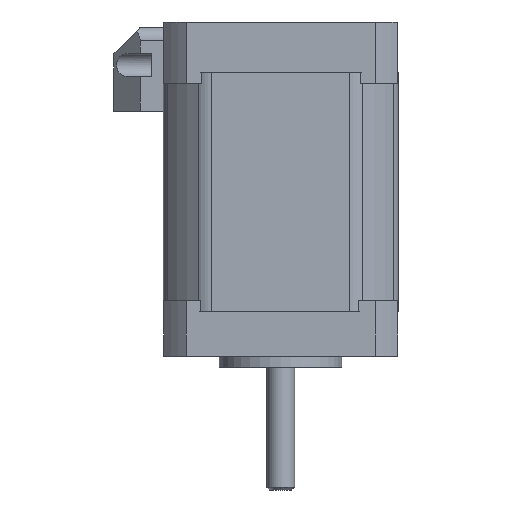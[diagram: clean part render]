
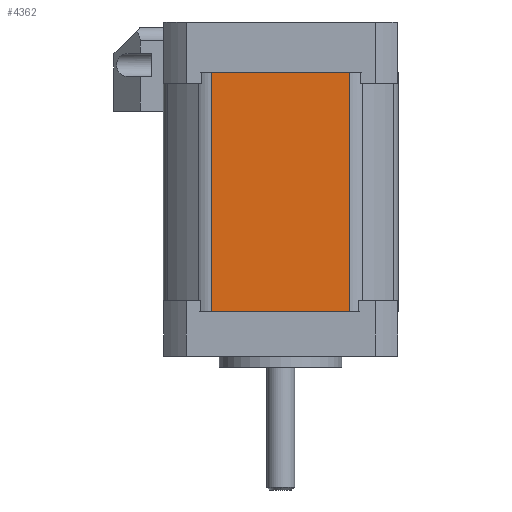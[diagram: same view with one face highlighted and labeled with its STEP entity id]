
A CAD part, left-side view. The second image highlights one B-rep face of the part: STEP entity #4362.
In plain terms, the highlighted planar face has unit normal (-1, 0, 0).
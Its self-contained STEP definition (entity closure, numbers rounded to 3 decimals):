
#511 = FACE_OUTER_BOUND ( 'NONE', #11857, .T. ) ;
#854 = ORIENTED_EDGE ( 'NONE', *, *, #3092, .F. ) ;
#1238 = DIRECTION ( 'NONE',  ( 0., 0., -1. ) ) ;
#2352 = VERTEX_POINT ( 'NONE', #17008 ) ;
#2599 = CARTESIAN_POINT ( 'NONE',  ( -21.065, -12.422, 0. ) ) ;
#3092 = EDGE_CURVE ( 'NONE', #2352, #13636, #19093, .T. ) ;
#3503 = DIRECTION ( 'NONE',  ( 0., -1., 0. ) ) ;
#4325 = EDGE_CURVE ( 'NONE', #14086, #13636, #16878, .T. ) ;
#4362 = ADVANCED_FACE ( 'NONE', ( #511 ), #4386, .F. ) ;
#4386 = PLANE ( 'NONE',  #5140 ) ;
#4445 = DIRECTION ( 'NONE',  ( 0., 0., -1. ) ) ;
#5140 = AXIS2_PLACEMENT_3D ( 'NONE', #19902, #7682, #1238 ) ;
#5336 = DIRECTION ( 'NONE',  ( 0., 0., 1. ) ) ;
#5464 = CARTESIAN_POINT ( 'NONE',  ( -21.065, 12.422, 43. ) ) ;
#6751 = EDGE_CURVE ( 'NONE', #14086, #10246, #9531, .T. ) ;
#7682 = DIRECTION ( 'NONE',  ( 1., 0., 0. ) ) ;
#8667 = VECTOR ( 'NONE', #19385, 1000. ) ;
#9290 = CARTESIAN_POINT ( 'NONE',  ( -21.065, -12.422, 43. ) ) ;
#9531 = LINE ( 'NONE', #5464, #10981 ) ;
#10246 = VERTEX_POINT ( 'NONE', #12347 ) ;
#10981 = VECTOR ( 'NONE', #5336, 1000. ) ;
#11857 = EDGE_LOOP ( 'NONE', ( #18683, #15275, #854, #18573 ) ) ;
#12347 = CARTESIAN_POINT ( 'NONE',  ( -21.065, 12.422, 43. ) ) ;
#12814 = LINE ( 'NONE', #14267, #19525 ) ;
#13636 = VERTEX_POINT ( 'NONE', #2599 ) ;
#14086 = VERTEX_POINT ( 'NONE', #14523 ) ;
#14267 = CARTESIAN_POINT ( 'NONE',  ( -21.065, -21.065, 43. ) ) ;
#14523 = CARTESIAN_POINT ( 'NONE',  ( -21.065, 12.422, 0. ) ) ;
#15275 = ORIENTED_EDGE ( 'NONE', *, *, #4325, .T. ) ;
#15732 = EDGE_CURVE ( 'NONE', #10246, #2352, #12814, .T. ) ;
#16878 = LINE ( 'NONE', #17830, #8667 ) ;
#17008 = CARTESIAN_POINT ( 'NONE',  ( -21.065, -12.422, 43. ) ) ;
#17830 = CARTESIAN_POINT ( 'NONE',  ( -21.065, -21.065, 0. ) ) ;
#18573 = ORIENTED_EDGE ( 'NONE', *, *, #15732, .F. ) ;
#18626 = VECTOR ( 'NONE', #4445, 1000. ) ;
#18683 = ORIENTED_EDGE ( 'NONE', *, *, #6751, .F. ) ;
#19093 = LINE ( 'NONE', #9290, #18626 ) ;
#19385 = DIRECTION ( 'NONE',  ( 0., -1., 0. ) ) ;
#19525 = VECTOR ( 'NONE', #3503, 1000. ) ;
#19902 = CARTESIAN_POINT ( 'NONE',  ( -21.065, -12.422, 43. ) ) ;
